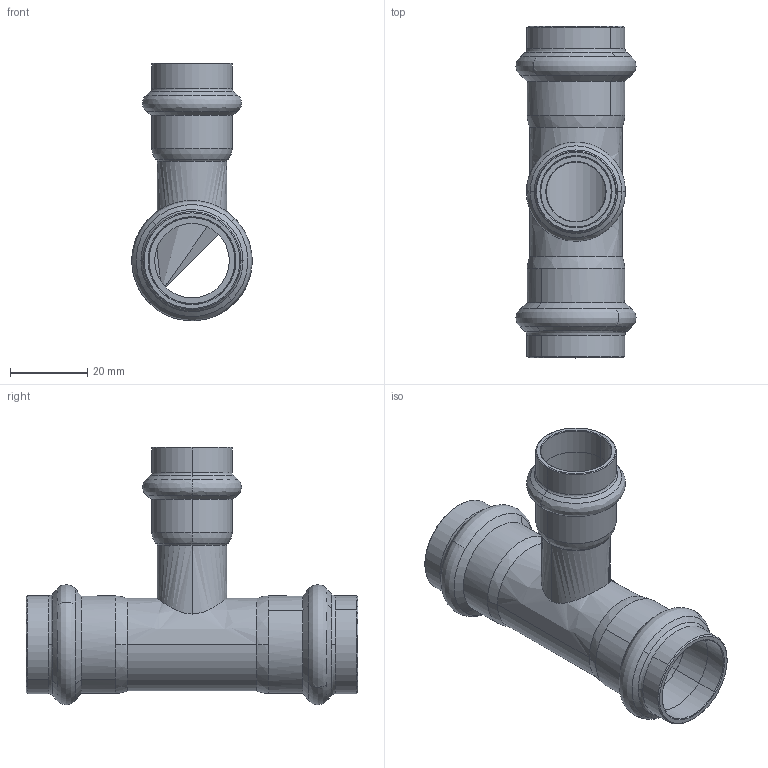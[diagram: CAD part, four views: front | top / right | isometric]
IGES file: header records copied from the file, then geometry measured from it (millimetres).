
Start section: Elysium IGES Interface
Global section: file name: C:\3d modellen sudo\C-Pr VP\SP8130RV\8130RVW221822.igs; native system: CoCreate Modeling 17.00A  17-Jun-2010; preprocessor: CoCreate IGES_3D V2.2; author: Unknown; organization: Unknown; date: 20130131.143701; units: millimetre
Bounding box: 31.19 x 86.01 x 66.79 mm (x, y, z)
Surface area: 18503.3 mm2 (no closed solid volume)
Topology: 0 solids, 1 shells, 124 faces, 290 edges, 174 vertices
Faces by surface type: bspline 124
